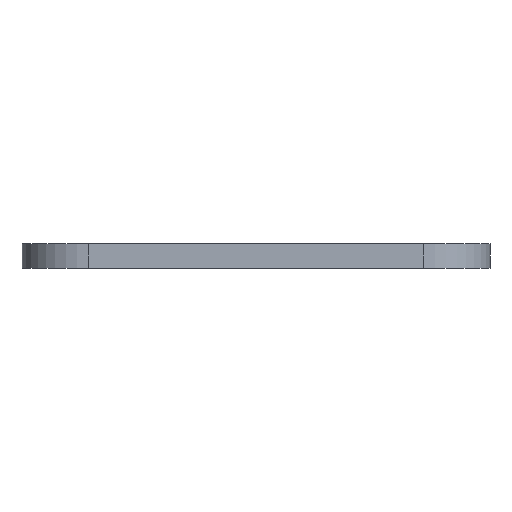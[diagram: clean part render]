
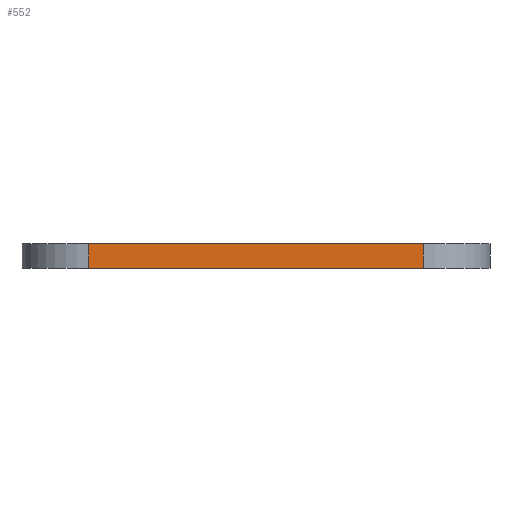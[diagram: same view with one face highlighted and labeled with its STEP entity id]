
A CAD part, left-side view. The second image highlights one B-rep face of the part: STEP entity #552.
In plain terms, the highlighted planar face has unit normal (-1, 0, 0).
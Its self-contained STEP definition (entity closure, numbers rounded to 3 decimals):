
#22 = VERTEX_POINT('',#23);
#23 = CARTESIAN_POINT('',(-10.5,20.,15.5));
#33 = PLANE('',#34);
#34 = AXIS2_PLACEMENT_3D('',#35,#36,#37);
#35 = CARTESIAN_POINT('',(-7.5,17.,15.5));
#36 = DIRECTION('',(0.,0.,1.));
#37 = DIRECTION('',(1.,0.,-0.));
#45 = CYLINDRICAL_SURFACE('',#46,3.);
#46 = AXIS2_PLACEMENT_3D('',#47,#48,#49);
#47 = CARTESIAN_POINT('',(-7.5,20.,14.4));
#48 = DIRECTION('',(0.,0.,1.));
#49 = DIRECTION('',(1.,0.,-0.));
#200 = VERTEX_POINT('',#201);
#201 = CARTESIAN_POINT('',(-10.5,35.,15.5));
#216 = CYLINDRICAL_SURFACE('',#217,3.);
#217 = AXIS2_PLACEMENT_3D('',#218,#219,#220);
#218 = CARTESIAN_POINT('',(-7.5,35.,14.4));
#219 = DIRECTION('',(0.,0.,1.));
#220 = DIRECTION('',(1.,0.,-0.));
#228 = EDGE_CURVE('',#22,#200,#229,.T.);
#229 = SURFACE_CURVE('',#230,(#234,#241),.PCURVE_S1.);
#230 = LINE('',#231,#232);
#231 = CARTESIAN_POINT('',(-10.5,20.,15.5));
#232 = VECTOR('',#233,1.);
#233 = DIRECTION('',(-0.,1.,0.));
#234 = PCURVE('',#33,#235);
#235 = DEFINITIONAL_REPRESENTATION('',(#236),#240);
#236 = LINE('',#237,#238);
#237 = CARTESIAN_POINT('',(-3.,3.));
#238 = VECTOR('',#239,1.);
#239 = DIRECTION('',(0.,1.));
#240 = ( GEOMETRIC_REPRESENTATION_CONTEXT(2) 
PARAMETRIC_REPRESENTATION_CONTEXT() REPRESENTATION_CONTEXT('2D SPACE',''
  ) );
#241 = PCURVE('',#242,#247);
#242 = PLANE('',#243);
#243 = AXIS2_PLACEMENT_3D('',#244,#245,#246);
#244 = CARTESIAN_POINT('',(-10.5,20.,14.4));
#245 = DIRECTION('',(1.,0.,-0.));
#246 = DIRECTION('',(0.,0.,1.));
#247 = DEFINITIONAL_REPRESENTATION('',(#248),#252);
#248 = LINE('',#249,#250);
#249 = CARTESIAN_POINT('',(1.1,0.));
#250 = VECTOR('',#251,1.);
#251 = DIRECTION('',(0.,-1.));
#252 = ( GEOMETRIC_REPRESENTATION_CONTEXT(2) 
PARAMETRIC_REPRESENTATION_CONTEXT() REPRESENTATION_CONTEXT('2D SPACE',''
  ) );
#480 = EDGE_CURVE('',#481,#22,#483,.T.);
#481 = VERTEX_POINT('',#482);
#482 = CARTESIAN_POINT('',(-10.5,20.,14.4));
#483 = SURFACE_CURVE('',#484,(#488,#495),.PCURVE_S1.);
#484 = LINE('',#485,#486);
#485 = CARTESIAN_POINT('',(-10.5,20.,14.4));
#486 = VECTOR('',#487,1.);
#487 = DIRECTION('',(0.,0.,1.));
#488 = PCURVE('',#45,#489);
#489 = DEFINITIONAL_REPRESENTATION('',(#490),#494);
#490 = LINE('',#491,#492);
#491 = CARTESIAN_POINT('',(3.142,0.));
#492 = VECTOR('',#493,1.);
#493 = DIRECTION('',(0.,1.));
#494 = ( GEOMETRIC_REPRESENTATION_CONTEXT(2) 
PARAMETRIC_REPRESENTATION_CONTEXT() REPRESENTATION_CONTEXT('2D SPACE',''
  ) );
#495 = PCURVE('',#242,#496);
#496 = DEFINITIONAL_REPRESENTATION('',(#497),#501);
#497 = LINE('',#498,#499);
#498 = CARTESIAN_POINT('',(0.,0.));
#499 = VECTOR('',#500,1.);
#500 = DIRECTION('',(1.,0.));
#501 = ( GEOMETRIC_REPRESENTATION_CONTEXT(2) 
PARAMETRIC_REPRESENTATION_CONTEXT() REPRESENTATION_CONTEXT('2D SPACE',''
  ) );
#520 = PLANE('',#521);
#521 = AXIS2_PLACEMENT_3D('',#522,#523,#524);
#522 = CARTESIAN_POINT('',(-7.5,20.,14.4));
#523 = DIRECTION('',(0.,0.,1.));
#524 = DIRECTION('',(1.,0.,-0.));
#552 = ADVANCED_FACE('',(#553),#242,.F.);
#553 = FACE_BOUND('',#554,.F.);
#554 = EDGE_LOOP('',(#555,#556,#579,#600));
#555 = ORIENTED_EDGE('',*,*,#480,.F.);
#556 = ORIENTED_EDGE('',*,*,#557,.T.);
#557 = EDGE_CURVE('',#481,#558,#560,.T.);
#558 = VERTEX_POINT('',#559);
#559 = CARTESIAN_POINT('',(-10.5,35.,14.4));
#560 = SURFACE_CURVE('',#561,(#565,#572),.PCURVE_S1.);
#561 = LINE('',#562,#563);
#562 = CARTESIAN_POINT('',(-10.5,20.,14.4));
#563 = VECTOR('',#564,1.);
#564 = DIRECTION('',(-0.,1.,0.));
#565 = PCURVE('',#242,#566);
#566 = DEFINITIONAL_REPRESENTATION('',(#567),#571);
#567 = LINE('',#568,#569);
#568 = CARTESIAN_POINT('',(0.,0.));
#569 = VECTOR('',#570,1.);
#570 = DIRECTION('',(0.,-1.));
#571 = ( GEOMETRIC_REPRESENTATION_CONTEXT(2) 
PARAMETRIC_REPRESENTATION_CONTEXT() REPRESENTATION_CONTEXT('2D SPACE',''
  ) );
#572 = PCURVE('',#520,#573);
#573 = DEFINITIONAL_REPRESENTATION('',(#574),#578);
#574 = LINE('',#575,#576);
#575 = CARTESIAN_POINT('',(-3.,0.));
#576 = VECTOR('',#577,1.);
#577 = DIRECTION('',(0.,1.));
#578 = ( GEOMETRIC_REPRESENTATION_CONTEXT(2) 
PARAMETRIC_REPRESENTATION_CONTEXT() REPRESENTATION_CONTEXT('2D SPACE',''
  ) );
#579 = ORIENTED_EDGE('',*,*,#580,.T.);
#580 = EDGE_CURVE('',#558,#200,#581,.T.);
#581 = SURFACE_CURVE('',#582,(#586,#593),.PCURVE_S1.);
#582 = LINE('',#583,#584);
#583 = CARTESIAN_POINT('',(-10.5,35.,14.4));
#584 = VECTOR('',#585,1.);
#585 = DIRECTION('',(0.,0.,1.));
#586 = PCURVE('',#242,#587);
#587 = DEFINITIONAL_REPRESENTATION('',(#588),#592);
#588 = LINE('',#589,#590);
#589 = CARTESIAN_POINT('',(0.,-15.));
#590 = VECTOR('',#591,1.);
#591 = DIRECTION('',(1.,0.));
#592 = ( GEOMETRIC_REPRESENTATION_CONTEXT(2) 
PARAMETRIC_REPRESENTATION_CONTEXT() REPRESENTATION_CONTEXT('2D SPACE',''
  ) );
#593 = PCURVE('',#216,#594);
#594 = DEFINITIONAL_REPRESENTATION('',(#595),#599);
#595 = LINE('',#596,#597);
#596 = CARTESIAN_POINT('',(3.142,0.));
#597 = VECTOR('',#598,1.);
#598 = DIRECTION('',(0.,1.));
#599 = ( GEOMETRIC_REPRESENTATION_CONTEXT(2) 
PARAMETRIC_REPRESENTATION_CONTEXT() REPRESENTATION_CONTEXT('2D SPACE',''
  ) );
#600 = ORIENTED_EDGE('',*,*,#228,.F.);
